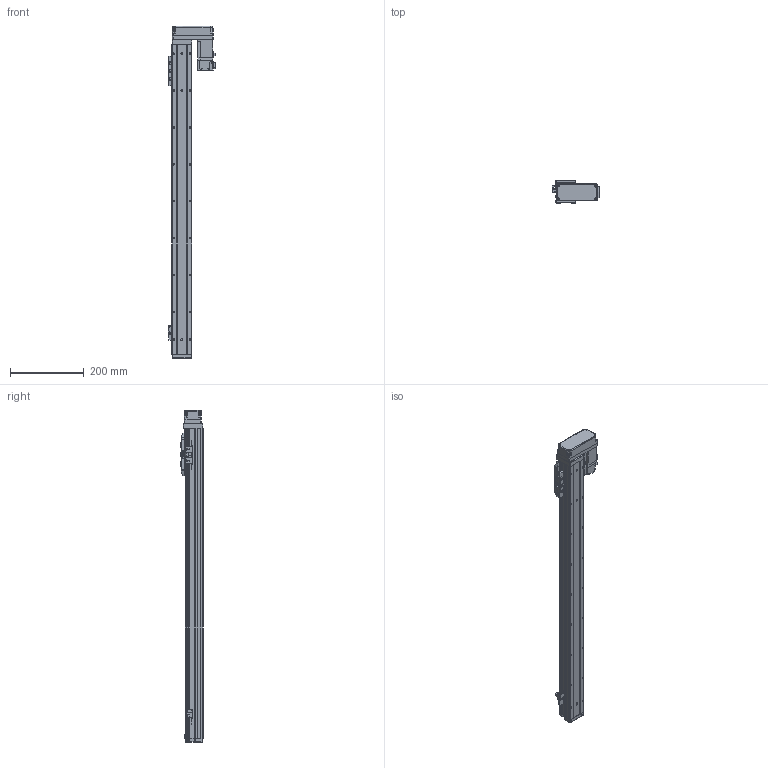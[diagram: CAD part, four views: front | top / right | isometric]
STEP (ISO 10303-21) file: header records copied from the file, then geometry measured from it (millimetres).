
FILE_DESCRIPTION (( 'STEP AP214' ), '1' );
FILE_NAME ('N_GRH5-700-BL-M10.step', '2025-03-14T09:45:51', ( '' ), ( '' ), 'SwSTEP 2.0', 'SolidWorks 2016', '' );
FILE_SCHEMA (( 'AUTOMOTIVE_DESIGN' ));
Length unit declared in the file: millimetre
Products named in the file (5): N_GRH5-700-BL-M10; HF-KP13_100W_Motor^N_GRH5-700-BL-M10; N_GRH5-BL-008^N_GRH5-700-BL-M10; N_GRH5-GY-011^N_GRH5-700-BL-M10; N_GRH5-GY-004^N_GRH5-700-BL-M10
Assembly tree (4 placements, depth 2):
  N_GRH5-700-BL-M10
    N_GRH5-GY-011^N_GRH5-700-BL-M10
    N_GRH5-GY-004^N_GRH5-700-BL-M10
    HF-KP13_100W_Motor^N_GRH5-700-BL-M10
    N_GRH5-BL-008^N_GRH5-700-BL-M10
Bounding box: 128.85 x 60 x 900 mm (x, y, z)
Volume: 1647973.6 mm3; surface area: 422062.1 mm2
Topology: 4 solids, 5 shells, 944 faces, 2424 edges, 1545 vertices
Faces by surface type: plane 559, cylinder 330, cone 30, bspline 15, sphere 10
Entity records: 35973 total; most frequent: CARTESIAN_POINT 5751, DIRECTION 4893, ORIENTED_EDGE 4800, EDGE_CURVE 2400, VECTOR 1647, LINE 1647, AXIS2_PLACEMENT_3D 1623, VERTEX_POINT 1543
